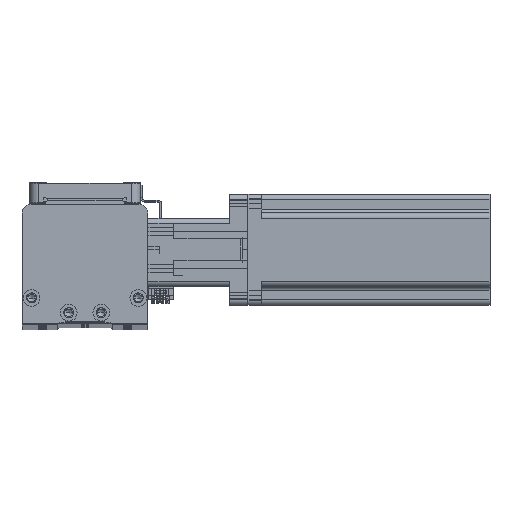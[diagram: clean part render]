
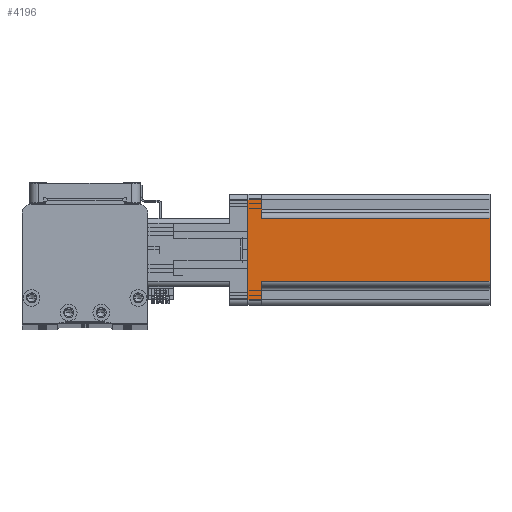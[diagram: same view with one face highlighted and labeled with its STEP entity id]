
A CAD part, top view. The second image highlights one B-rep face of the part: STEP entity #4196.
In plain terms, the highlighted planar face has unit normal (0, 0, 1) as drawn and (1, 0, 0) by its records, which use the part's own axes.
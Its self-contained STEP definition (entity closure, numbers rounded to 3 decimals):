
#856 = LINE ( 'NONE', #11432, #10020 ) ;
#3018 = CARTESIAN_POINT ( 'NONE',  ( 30., 17., 7.5 ) ) ;
#3866 = VERTEX_POINT ( 'NONE', #7663 ) ;
#3990 = DIRECTION ( 'NONE',  ( 0., 0., 1. ) ) ;
#4196 = ADVANCED_FACE ( 'NONE', ( #18522 ), #48661, .F. ) ;
#4596 = ORIENTED_EDGE ( 'NONE', *, *, #29011, .T. ) ;
#5032 = VERTEX_POINT ( 'NONE', #5406 ) ;
#5118 = ORIENTED_EDGE ( 'NONE', *, *, #10317, .F. ) ;
#5259 = VERTEX_POINT ( 'NONE', #3018 ) ;
#5406 = CARTESIAN_POINT ( 'NONE',  ( 30., 27., 0. ) ) ;
#6761 = LINE ( 'NONE', #39287, #26173 ) ;
#7663 = CARTESIAN_POINT ( 'NONE',  ( 30., -17., 7.5 ) ) ;
#7734 = VERTEX_POINT ( 'NONE', #28166 ) ;
#8681 = ORIENTED_EDGE ( 'NONE', *, *, #43564, .F. ) ;
#10020 = VECTOR ( 'NONE', #34584, 1000. ) ;
#10317 = EDGE_CURVE ( 'NONE', #18530, #36106, #17587, .T. ) ;
#11432 = CARTESIAN_POINT ( 'NONE',  ( 30., 17., 130.7 ) ) ;
#13686 = VECTOR ( 'NONE', #22568, 1000. ) ;
#13899 = VERTEX_POINT ( 'NONE', #21375 ) ;
#13916 = CARTESIAN_POINT ( 'NONE',  ( 30., -30., 130.7 ) ) ;
#15488 = EDGE_LOOP ( 'NONE', ( #5118, #20993, #44912, #37949, #4596, #21203, #8681, #26960 ) ) ;
#16095 = DIRECTION ( 'NONE',  ( 0., 0., -1. ) ) ;
#17587 = LINE ( 'NONE', #42167, #44821 ) ;
#17704 = LINE ( 'NONE', #30598, #26723 ) ;
#17824 = DIRECTION ( 'NONE',  ( 0., 0., 1. ) ) ;
#17904 = EDGE_CURVE ( 'NONE', #18530, #3866, #6761, .T. ) ;
#18522 = FACE_OUTER_BOUND ( 'NONE', #15488, .T. ) ;
#18530 = VERTEX_POINT ( 'NONE', #46006 ) ;
#19578 = EDGE_CURVE ( 'NONE', #3866, #27818, #17704, .T. ) ;
#20993 = ORIENTED_EDGE ( 'NONE', *, *, #17904, .T. ) ;
#21203 = ORIENTED_EDGE ( 'NONE', *, *, #44442, .T. ) ;
#21375 = CARTESIAN_POINT ( 'NONE',  ( 30., 27., 7.5 ) ) ;
#22557 = AXIS2_PLACEMENT_3D ( 'NONE', #13916, #40968, #17824 ) ;
#22568 = DIRECTION ( 'NONE',  ( 0., 1., 0. ) ) ;
#25688 = VECTOR ( 'NONE', #48146, 1000. ) ;
#26173 = VECTOR ( 'NONE', #16095, 1000. ) ;
#26249 = DIRECTION ( 'NONE',  ( 0., 0., -1. ) ) ;
#26723 = VECTOR ( 'NONE', #50021, 1000. ) ;
#26960 = ORIENTED_EDGE ( 'NONE', *, *, #42662, .T. ) ;
#27411 = CARTESIAN_POINT ( 'NONE',  ( 30., 27., 130.7 ) ) ;
#27818 = VERTEX_POINT ( 'NONE', #32107 ) ;
#28166 = CARTESIAN_POINT ( 'NONE',  ( 30., -27., 0. ) ) ;
#29011 = EDGE_CURVE ( 'NONE', #7734, #5032, #34224, .T. ) ;
#30598 = CARTESIAN_POINT ( 'NONE',  ( 30., -30., 7.5 ) ) ;
#31671 = LINE ( 'NONE', #45556, #40786 ) ;
#32107 = CARTESIAN_POINT ( 'NONE',  ( 30., -27., 7.5 ) ) ;
#33174 = CARTESIAN_POINT ( 'NONE',  ( 30., 30., 7.5 ) ) ;
#34224 = LINE ( 'NONE', #45764, #13686 ) ;
#34508 = DIRECTION ( 'NONE',  ( 0., 1., 0. ) ) ;
#34584 = DIRECTION ( 'NONE',  ( 0., 0., 1. ) ) ;
#34917 = EDGE_CURVE ( 'NONE', #27818, #7734, #31671, .T. ) ;
#35983 = LINE ( 'NONE', #33174, #25688 ) ;
#36106 = VERTEX_POINT ( 'NONE', #46704 ) ;
#37949 = ORIENTED_EDGE ( 'NONE', *, *, #34917, .T. ) ;
#38758 = LINE ( 'NONE', #27411, #50354 ) ;
#39287 = CARTESIAN_POINT ( 'NONE',  ( 30., -17., 7.5 ) ) ;
#40786 = VECTOR ( 'NONE', #26249, 1000. ) ;
#40968 = DIRECTION ( 'NONE',  ( -1., 0., 0. ) ) ;
#42167 = CARTESIAN_POINT ( 'NONE',  ( 30., -30., 130.7 ) ) ;
#42662 = EDGE_CURVE ( 'NONE', #5259, #36106, #856, .T. ) ;
#43564 = EDGE_CURVE ( 'NONE', #5259, #13899, #35983, .T. ) ;
#44442 = EDGE_CURVE ( 'NONE', #5032, #13899, #38758, .T. ) ;
#44821 = VECTOR ( 'NONE', #34508, 1000. ) ;
#44912 = ORIENTED_EDGE ( 'NONE', *, *, #19578, .T. ) ;
#45556 = CARTESIAN_POINT ( 'NONE',  ( 30., -27., 130.7 ) ) ;
#45764 = CARTESIAN_POINT ( 'NONE',  ( 30., -30., 0. ) ) ;
#46006 = CARTESIAN_POINT ( 'NONE',  ( 30., -17., 130.7 ) ) ;
#46704 = CARTESIAN_POINT ( 'NONE',  ( 30., 17., 130.7 ) ) ;
#48146 = DIRECTION ( 'NONE',  ( 0., 1., 0. ) ) ;
#48661 = PLANE ( 'NONE',  #22557 ) ;
#50021 = DIRECTION ( 'NONE',  ( 0., -1., 0. ) ) ;
#50354 = VECTOR ( 'NONE', #3990, 1000. ) ;
